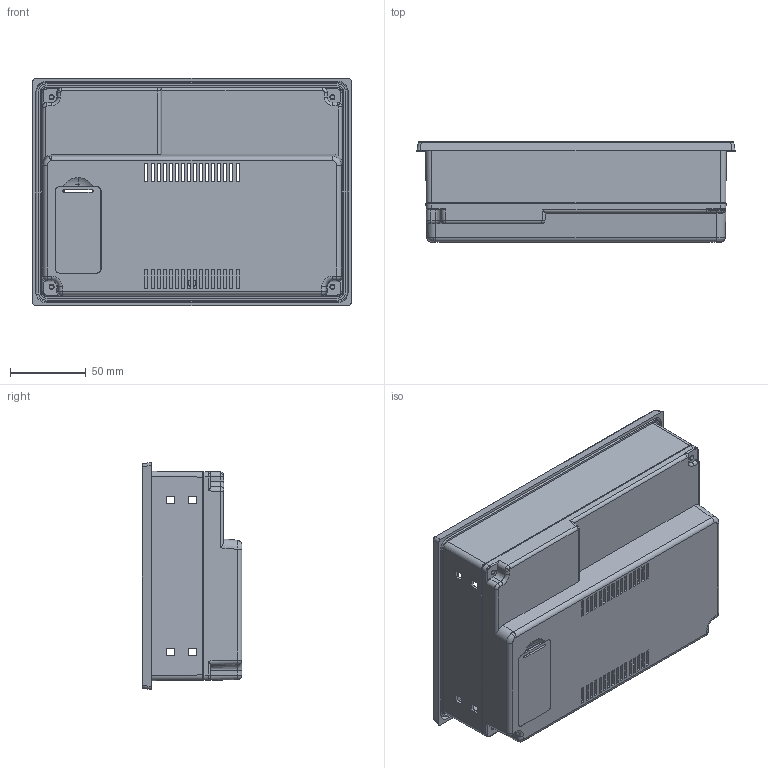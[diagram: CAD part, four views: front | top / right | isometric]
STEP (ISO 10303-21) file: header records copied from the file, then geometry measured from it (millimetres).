
FILE_DESCRIPTION (( 'STEP AP203' ), '1' );
FILE_NAME ('PO360-A.STEP', '2017-04-24T08:29:33', ( '' ), ( '' ), 'SwSTEP 2.0', 'SolidWorks 2015', '' );
FILE_SCHEMA (( 'CONFIG_CONTROL_DESIGN' ));
Length unit declared in the file: millimetre
Products named in the file (4): PO360-A
Assembly tree (3 placements, depth 2):
  PO360-A
    PO360-A
    PO360-A
    PO360-A
Bounding box: 209.7 x 65.8 x 149.7 mm (x, y, z)
Volume: 186815.5 mm3; surface area: 191466.9 mm2
Topology: 3 solids, 3 shells, 966 faces, 2615 edges, 1697 vertices
Faces by surface type: plane 629, cylinder 236, cone 48, bspline 36, sphere 9, torus 8
Entity records: 31348 total; most frequent: CARTESIAN_POINT 7338, ORIENTED_EDGE 5212, DIRECTION 4513, EDGE_CURVE 2606, LINE 1813, VECTOR 1813, VERTEX_POINT 1697, AXIS2_PLACEMENT_3D 1350
